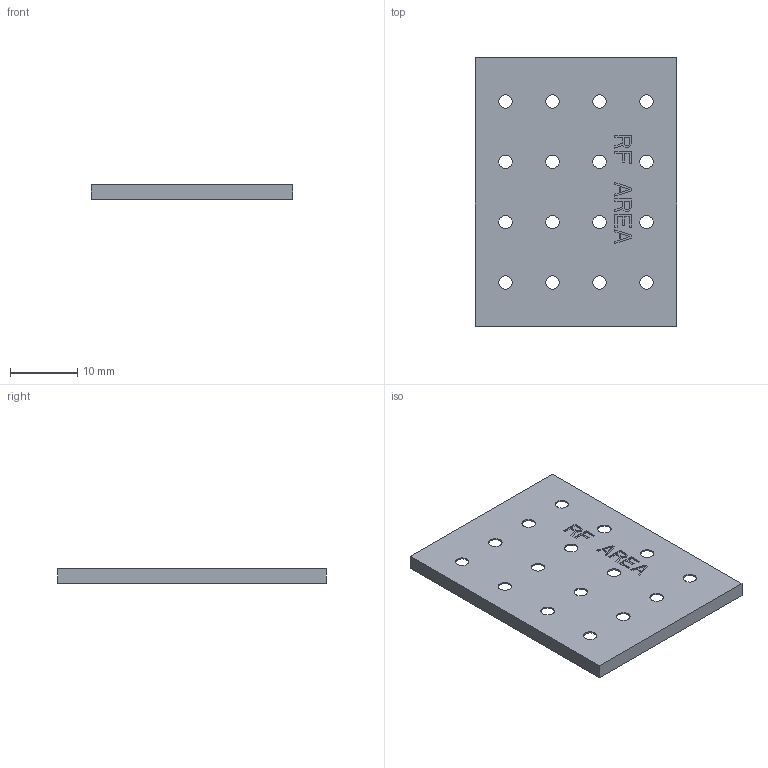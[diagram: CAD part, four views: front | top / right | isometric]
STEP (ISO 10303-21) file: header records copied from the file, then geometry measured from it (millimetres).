
FILE_DESCRIPTION((''),'2;1');
FILE_NAME('SHIELDING-RF_PRT','2008-06-30T',('GRA'),(''),'PRO/ENGINEER BY PARAMETRIC TECHNOLOGY CORPORATION, 2006170','PRO/ENGINEER BY PARAMETRIC TECHNOLOGY CORPORATION, 2006170','');
FILE_SCHEMA(('CONFIG_CONTROL_DESIGN'));
Length unit declared in the file: millimetre
Products named in the file (1): SHIELDING-RF_PRT
Bounding box: 30 x 40 x 2.2 mm (x, y, z)
Volume: 284.5 mm3; surface area: 2912.3 mm2
Topology: 1 solids, 1 shells, 149 faces, 408 edges, 272 vertices
Faces by surface type: plane 117, cylinder 32
Entity records: 4788 total; most frequent: CARTESIAN_POINT 829, ORIENTED_EDGE 816, DIRECTION 770, EDGE_CURVE 408, VECTOR 344, LINE 344, VERTEX_POINT 272, AXIS2_PLACEMENT_3D 213
